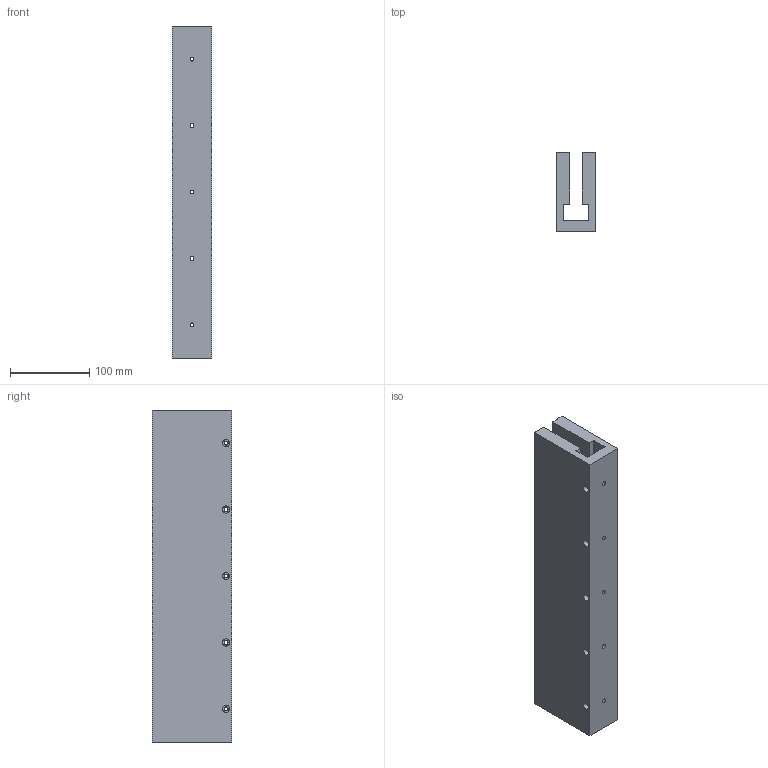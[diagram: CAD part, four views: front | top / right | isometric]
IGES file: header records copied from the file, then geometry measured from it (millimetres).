
Start section: SolidWorks IGES file using analytic representation for surfaces
Bounding box: 50 x 100 x 419.5 mm (x, y, z)
Surface area: 223276.8 mm2 (no closed solid volume)
Topology: 0 solids, 0 shells, 88 faces, 2136 edges, 2136 vertices
Faces by surface type: revolution 60, bspline 28
